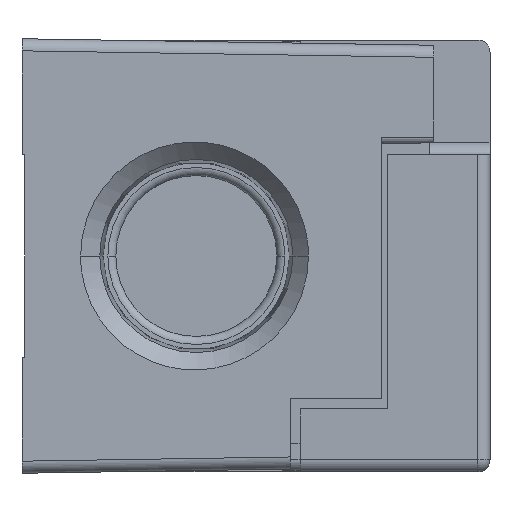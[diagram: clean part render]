
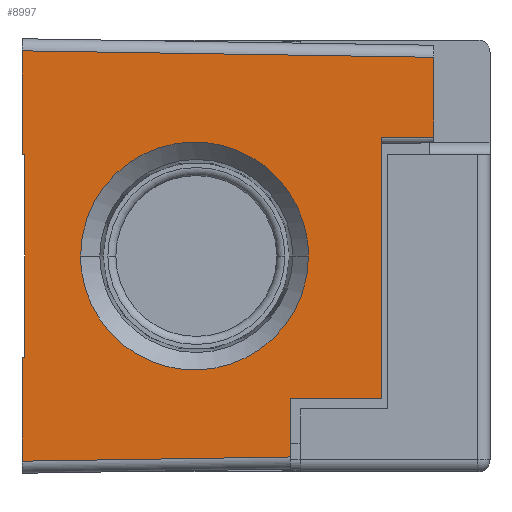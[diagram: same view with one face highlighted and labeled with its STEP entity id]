
A CAD part, front view. The second image highlights one B-rep face of the part: STEP entity #8997.
In plain terms, the highlighted planar face has unit normal (0.016, -1, 0).
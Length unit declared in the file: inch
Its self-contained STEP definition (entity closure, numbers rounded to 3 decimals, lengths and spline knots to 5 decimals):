
#1671=CARTESIAN_POINT('',(0.161,-3.18829,-0.7493));
#1681=DIRECTION('',(0.,0.,1.));
#1682=VECTOR('',#1681,0.2193);
#1683=CARTESIAN_POINT('',(0.161,-3.18829,-0.7493));
#1684=LINE('',#1683,#1682);
#2159=DIRECTION('',(0.,0.,1.));
#2160=VECTOR('',#2159,0.973);
#2161=CARTESIAN_POINT('',(0.501,-3.18295,-0.53));
#2162=LINE('',#2161,#2160);
#2167=DIRECTION('',(1.,0.016,0.));
#2168=VECTOR('',#2167,0.34004);
#2169=CARTESIAN_POINT('',(0.161,-3.18829,-0.53));
#2170=LINE('',#2169,#2168);
#2171=DIRECTION('',(-1.,-0.016,0.016));
#2172=VECTOR('',#2171,1.53538);
#2173=CARTESIAN_POINT('',(0.696,-3.17989,0.74089));
#2174=LINE('',#2173,#2172);
#2175=DIRECTION('',(1.,0.016,0.016));
#2176=VECTOR('',#2175,1.00025);
#2177=CARTESIAN_POINT('',(-0.839,-3.204,-0.76501));
#2178=LINE('',#2177,#2176);
#2179=DIRECTION('',(1.,0.016,0.));
#2180=VECTOR('',#2179,0.01);
#2181=CARTESIAN_POINT('',(-0.839,-3.204,-0.378));
#2182=LINE('',#2181,#2180);
#2183=DIRECTION('',(0.,0.,1.));
#2184=VECTOR('',#2183,0.756);
#2185=CARTESIAN_POINT('',(-0.829,-3.20384,-0.378));
#2186=LINE('',#2185,#2184);
#2187=DIRECTION('',(1.,0.016,0.));
#2188=VECTOR('',#2187,0.01);
#2189=CARTESIAN_POINT('',(-0.839,-3.204,0.378));
#2190=LINE('',#2189,#2188);
#2191=CARTESIAN_POINT('',(0.22922,-3.18722,0.));
#2192=CARTESIAN_POINT('',(0.22922,-3.18722,
-0.02503));
#2193=CARTESIAN_POINT('',(0.22477,-3.18729,
-0.07698));
#2194=CARTESIAN_POINT('',(0.20223,-3.18764,
-0.15686));
#2195=CARTESIAN_POINT('',(0.16265,-3.18826,
-0.23386));
#2196=CARTESIAN_POINT('',(0.10694,-3.18914,
-0.30258));
#2197=CARTESIAN_POINT('',(0.03821,-3.19022,
-0.35828));
#2198=CARTESIAN_POINT('',(-0.02595,-3.19123,
-0.39125));
#2199=CARTESIAN_POINT('',(-0.07874,-3.19206,
-0.40913));
#2200=CARTESIAN_POINT('',(-0.11844,-3.19268,
-0.41841));
#2201=CARTESIAN_POINT('',(-0.15111,-3.19319,
-0.42285));
#2202=CARTESIAN_POINT('',(-0.1768,-3.1936,
-0.42456));
#2203=CARTESIAN_POINT('',(-0.19567,-3.19389,
-0.42498));
#2204=CARTESIAN_POINT('',(-0.21455,-3.19419,
-0.42456));
#2205=CARTESIAN_POINT('',(-0.24024,-3.19459,
-0.42285));
#2206=CARTESIAN_POINT('',(-0.27291,-3.19511,
-0.41841));
#2207=CARTESIAN_POINT('',(-0.31261,-3.19573,
-0.40913));
#2208=CARTESIAN_POINT('',(-0.36539,-3.19656,
-0.39125));
#2209=CARTESIAN_POINT('',(-0.42956,-3.19757,
-0.35828));
#2210=CARTESIAN_POINT('',(-0.49829,-3.19865,
-0.30258));
#2211=CARTESIAN_POINT('',(-0.554,-3.19952,
-0.23386));
#2212=CARTESIAN_POINT('',(-0.59357,-3.20014,
-0.15686));
#2213=CARTESIAN_POINT('',(-0.61612,-3.2005,
-0.07698));
#2214=CARTESIAN_POINT('',(-0.62057,-3.20057,
-0.02503));
#2215=CARTESIAN_POINT('',(-0.62057,-3.20057,0.));
#2217=CARTESIAN_POINT('',(-0.62057,-3.20057,0.));
#2218=CARTESIAN_POINT('',(-0.62057,-3.20057,
0.02503));
#2219=CARTESIAN_POINT('',(-0.61612,-3.2005,
0.07698));
#2220=CARTESIAN_POINT('',(-0.59357,-3.20014,
0.15686));
#2221=CARTESIAN_POINT('',(-0.554,-3.19952,
0.23386));
#2222=CARTESIAN_POINT('',(-0.49829,-3.19865,
0.30258));
#2223=CARTESIAN_POINT('',(-0.42956,-3.19757,
0.35828));
#2224=CARTESIAN_POINT('',(-0.36539,-3.19656,
0.39125));
#2225=CARTESIAN_POINT('',(-0.31261,-3.19573,
0.40913));
#2226=CARTESIAN_POINT('',(-0.27291,-3.19511,
0.41841));
#2227=CARTESIAN_POINT('',(-0.24024,-3.19459,
0.42285));
#2228=CARTESIAN_POINT('',(-0.21455,-3.19419,
0.42456));
#2229=CARTESIAN_POINT('',(-0.19567,-3.19389,
0.42498));
#2230=CARTESIAN_POINT('',(-0.1768,-3.1936,
0.42456));
#2231=CARTESIAN_POINT('',(-0.15111,-3.19319,
0.42285));
#2232=CARTESIAN_POINT('',(-0.11844,-3.19268,
0.41841));
#2233=CARTESIAN_POINT('',(-0.07874,-3.19206,
0.40913));
#2234=CARTESIAN_POINT('',(-0.02595,-3.19123,
0.39125));
#2235=CARTESIAN_POINT('',(0.03821,-3.19022,
0.35828));
#2236=CARTESIAN_POINT('',(0.10694,-3.18914,
0.30258));
#2237=CARTESIAN_POINT('',(0.16265,-3.18826,
0.23386));
#2238=CARTESIAN_POINT('',(0.20223,-3.18764,
0.15686));
#2239=CARTESIAN_POINT('',(0.22477,-3.18729,
0.07698));
#2240=CARTESIAN_POINT('',(0.22922,-3.18722,
0.02503));
#2241=CARTESIAN_POINT('',(0.22922,-3.18722,0.));
#2243=CARTESIAN_POINT('',(-0.839,-3.204,0.76501));
#2253=DIRECTION('',(0.,0.,1.));
#2254=VECTOR('',#2253,0.38701);
#2255=CARTESIAN_POINT('',(-0.839,-3.204,0.378));
#2256=LINE('',#2255,#2254);
#2391=CARTESIAN_POINT('',(0.696,-3.17989,0.74089));
#2420=DIRECTION('',(0.,0.,-1.));
#2421=VECTOR('',#2420,0.29789);
#2422=CARTESIAN_POINT('',(0.696,-3.17989,0.74089));
#2423=LINE('',#2422,#2421);
#2451=DIRECTION('',(1.,0.016,0.));
#2452=VECTOR('',#2451,0.19502);
#2453=CARTESIAN_POINT('',(0.501,-3.18295,0.443));
#2454=LINE('',#2453,#2452);
#2490=CARTESIAN_POINT('',(-0.839,-3.204,-0.76501));
#2509=DIRECTION('',(0.,0.,1.));
#2510=VECTOR('',#2509,0.38701);
#2511=CARTESIAN_POINT('',(-0.839,-3.204,-0.76501));
#2512=LINE('',#2511,#2510);
#5629=CARTESIAN_POINT('',(0.22922,-3.18722,0.));
#5630=VERTEX_POINT('',#5629);
#5631=CARTESIAN_POINT('',(-0.62057,-3.20057,0.));
#5632=VERTEX_POINT('',#5631);
#5634=CARTESIAN_POINT('',(0.501,-3.18295,0.443));
#5636=VERTEX_POINT('',#5634);
#5643=CARTESIAN_POINT('',(0.696,-3.17989,0.443));
#5644=VERTEX_POINT('',#5643);
#5645=CARTESIAN_POINT('',(0.501,-3.18295,-0.53));
#5646=VERTEX_POINT('',#5645);
#5653=CARTESIAN_POINT('',(0.161,-3.18829,-0.53));
#5654=VERTEX_POINT('',#5653);
#5657=VERTEX_POINT('',#2243);
#5661=VERTEX_POINT('',#2391);
#5662=VERTEX_POINT('',#1671);
#5666=VERTEX_POINT('',#2490);
#5719=CARTESIAN_POINT('',(-0.839,-3.204,-0.378));
#5720=VERTEX_POINT('',#5719);
#5721=CARTESIAN_POINT('',(-0.839,-3.204,0.378));
#5723=VERTEX_POINT('',#5721);
#5741=CARTESIAN_POINT('',(-0.829,-3.20384,-0.378));
#5742=CARTESIAN_POINT('',(-0.829,-3.20384,0.378));
#5743=VERTEX_POINT('',#5741);
#5744=VERTEX_POINT('',#5742);
#8964=CARTESIAN_POINT('',(-0.839,-3.204,-1.85443));
#8965=DIRECTION('',(0.016,-1.,0.));
#8966=DIRECTION('',(0.,0.,1.));
#8967=AXIS2_PLACEMENT_3D('',#8964,#8965,#8966);
#8968=PLANE('',#8967);
#8970=ORIENTED_EDGE('',*,*,#8969,.F.);
#8972=ORIENTED_EDGE('',*,*,#8971,.T.);
#8974=ORIENTED_EDGE('',*,*,#8973,.F.);
#8975=ORIENTED_EDGE('',*,*,#8943,.F.);
#8976=ORIENTED_EDGE('',*,*,#8958,.F.);
#8977=ORIENTED_EDGE('',*,*,#8297,.F.);
#8979=ORIENTED_EDGE('',*,*,#8978,.F.);
#8981=ORIENTED_EDGE('',*,*,#8980,.T.);
#8983=ORIENTED_EDGE('',*,*,#8982,.T.);
#8984=ORIENTED_EDGE('',*,*,#8717,.T.);
#8986=ORIENTED_EDGE('',*,*,#8985,.F.);
#8988=ORIENTED_EDGE('',*,*,#8987,.T.);
#8989=EDGE_LOOP('',(#8970,#8972,#8974,#8975,#8976,#8977,#8979,#8981,#8983,#8984,
#8986,#8988));
#8990=FACE_OUTER_BOUND('',#8989,.F.);
#8992=ORIENTED_EDGE('',*,*,#8991,.F.);
#8994=ORIENTED_EDGE('',*,*,#8993,.F.);
#8995=EDGE_LOOP('',(#8992,#8994));
#8996=FACE_BOUND('',#8995,.F.);
#8997=ADVANCED_FACE('',(#8990,#8996),#8968,.T.);
#2216=B_SPLINE_CURVE_WITH_KNOTS('',3,(#2191,#2192,#2193,#2194,#2195,#2196,#2197,
#2198,#2199,#2200,#2201,#2202,#2203,#2204,#2205,#2206,#2207,#2208,#2209,#2210,
#2211,#2212,#2213,#2214,#2215),.UNSPECIFIED.,.F.,.F.,(4,1,1,1,1,1,1,1,1,1,1,1,1,
1,1,1,1,1,1,1,1,1,4),(0.,0.0625,0.125,0.1875,0.25,0.3125,0.375,
0.40625,0.4375,0.46875,0.48438,0.5,0.51563,0.53125,0.5625,
0.59375,0.625,0.6875,0.75,0.8125,0.875,0.9375,1.),
.UNSPECIFIED.);
#2242=B_SPLINE_CURVE_WITH_KNOTS('',3,(#2217,#2218,#2219,#2220,#2221,#2222,#2223,
#2224,#2225,#2226,#2227,#2228,#2229,#2230,#2231,#2232,#2233,#2234,#2235,#2236,
#2237,#2238,#2239,#2240,#2241),.UNSPECIFIED.,.F.,.F.,(4,1,1,1,1,1,1,1,1,1,1,1,1,
1,1,1,1,1,1,1,1,1,4),(0.,0.0625,0.125,0.1875,0.25,0.3125,0.375,
0.40625,0.4375,0.46875,0.48438,0.5,0.51563,0.53125,0.5625,
0.59375,0.625,0.6875,0.75,0.8125,0.875,0.9375,1.),
.UNSPECIFIED.);
#8297=EDGE_CURVE('',#5662,#5654,#1684,.T.);
#8717=EDGE_CURVE('',#5743,#5744,#2186,.T.);
#8943=EDGE_CURVE('',#5646,#5636,#2162,.T.);
#8958=EDGE_CURVE('',#5654,#5646,#2170,.T.);
#8969=EDGE_CURVE('',#5661,#5657,#2174,.T.);
#8971=EDGE_CURVE('',#5661,#5644,#2423,.T.);
#8973=EDGE_CURVE('',#5636,#5644,#2454,.T.);
#8978=EDGE_CURVE('',#5666,#5662,#2178,.T.);
#8980=EDGE_CURVE('',#5666,#5720,#2512,.T.);
#8982=EDGE_CURVE('',#5720,#5743,#2182,.T.);
#8985=EDGE_CURVE('',#5723,#5744,#2190,.T.);
#8987=EDGE_CURVE('',#5723,#5657,#2256,.T.);
#8991=EDGE_CURVE('',#5630,#5632,#2216,.T.);
#8993=EDGE_CURVE('',#5632,#5630,#2242,.T.);
